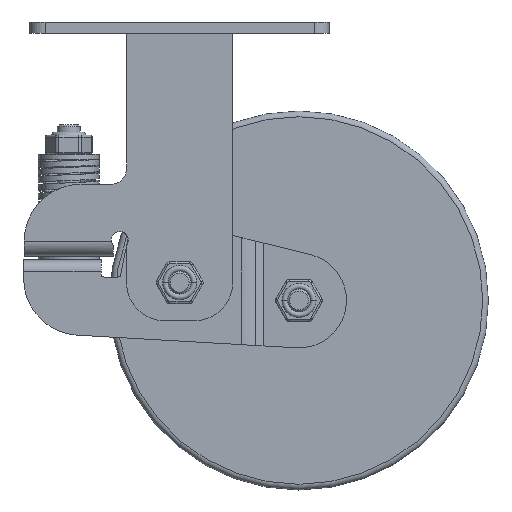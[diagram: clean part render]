
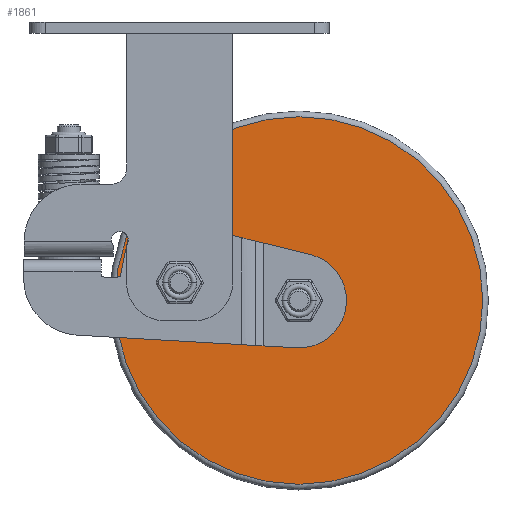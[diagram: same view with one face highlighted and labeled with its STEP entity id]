
A CAD part, front view. The second image highlights one B-rep face of the part: STEP entity #1861.
In plain terms, the highlighted planar face has unit normal (0, -1, 0).
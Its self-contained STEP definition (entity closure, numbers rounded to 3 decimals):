
#1861=ADVANCED_FACE('',(#4002,#4003),#2258,.F.);
#2258=PLANE('',#12634);
#4002=FACE_BOUND('',#4622,.T.);
#4003=FACE_BOUND('',#4623,.T.);
#4622=EDGE_LOOP('',(#7611));
#4623=EDGE_LOOP('',(#7612,#7613));
#7611=ORIENTED_EDGE('',*,*,#10727,.T.);
#7612=ORIENTED_EDGE('',*,*,#10728,.F.);
#7613=ORIENTED_EDGE('',*,*,#10729,.F.);
#9123=VERTEX_POINT('',#24518);
#9124=VERTEX_POINT('',#24520);
#9125=VERTEX_POINT('',#24521);
#10727=EDGE_CURVE('',#9123,#9123,#11492,.T.);
#10728=EDGE_CURVE('',#9124,#9125,#11493,.T.);
#10729=EDGE_CURVE('',#9125,#9124,#11494,.T.);
#11492=CIRCLE('',#12631,97.);
#11493=CIRCLE('',#12632,14.);
#11494=CIRCLE('',#12633,14.);
#12631=AXIS2_PLACEMENT_3D('',#24517,#15572,#15573);
#12632=AXIS2_PLACEMENT_3D('',#24519,#15574,#15575);
#12633=AXIS2_PLACEMENT_3D('',#24522,#15576,#15577);
#12634=AXIS2_PLACEMENT_3D('',#24523,#15578,#15579);
#15572=DIRECTION('',(0.,-1.,0.));
#15573=DIRECTION('',(0.,0.,1.));
#15574=DIRECTION('',(0.,-1.,0.));
#15575=DIRECTION('',(1.,0.,0.));
#15576=DIRECTION('',(0.,-1.,0.));
#15577=DIRECTION('',(-1.,0.,0.));
#15578=DIRECTION('',(0.,1.,0.));
#15579=DIRECTION('',(1.,0.,0.));
#24517=CARTESIAN_POINT('',(63.,-25.,-147.));
#24518=CARTESIAN_POINT('',(63.,-25.,-50.));
#24519=CARTESIAN_POINT('',(63.,-25.,-147.));
#24520=CARTESIAN_POINT('',(77.,-25.,-147.));
#24521=CARTESIAN_POINT('',(49.,-25.,-147.));
#24522=CARTESIAN_POINT('',(63.,-25.,-147.));
#24523=CARTESIAN_POINT('',(63.,-25.,-147.));
